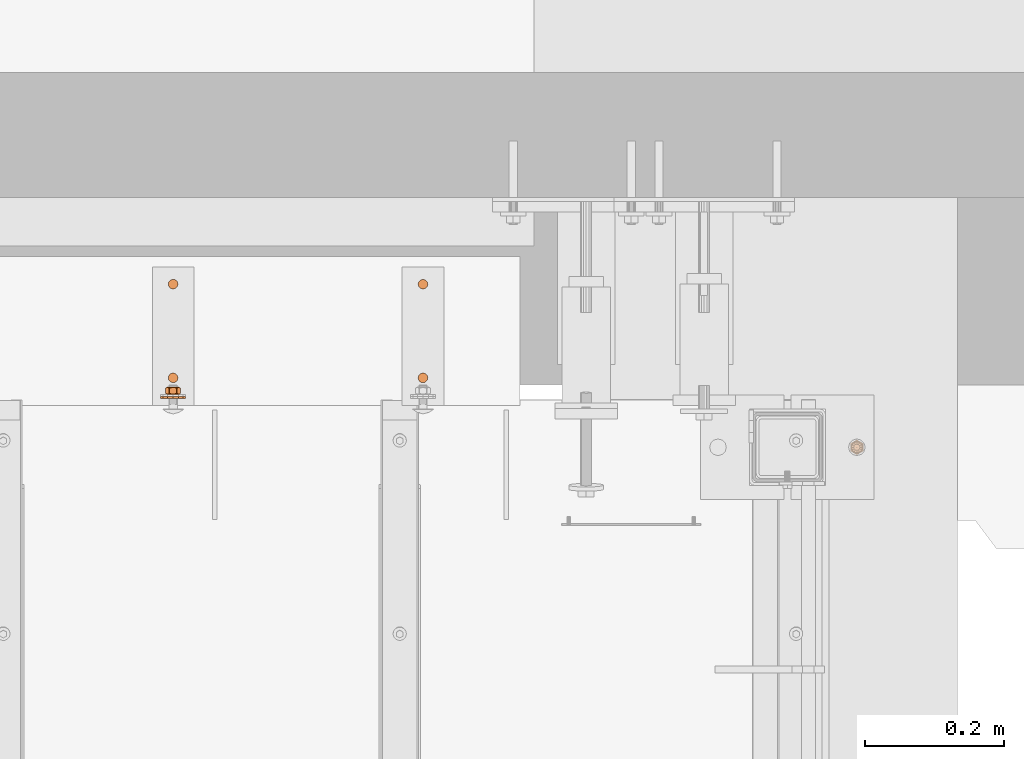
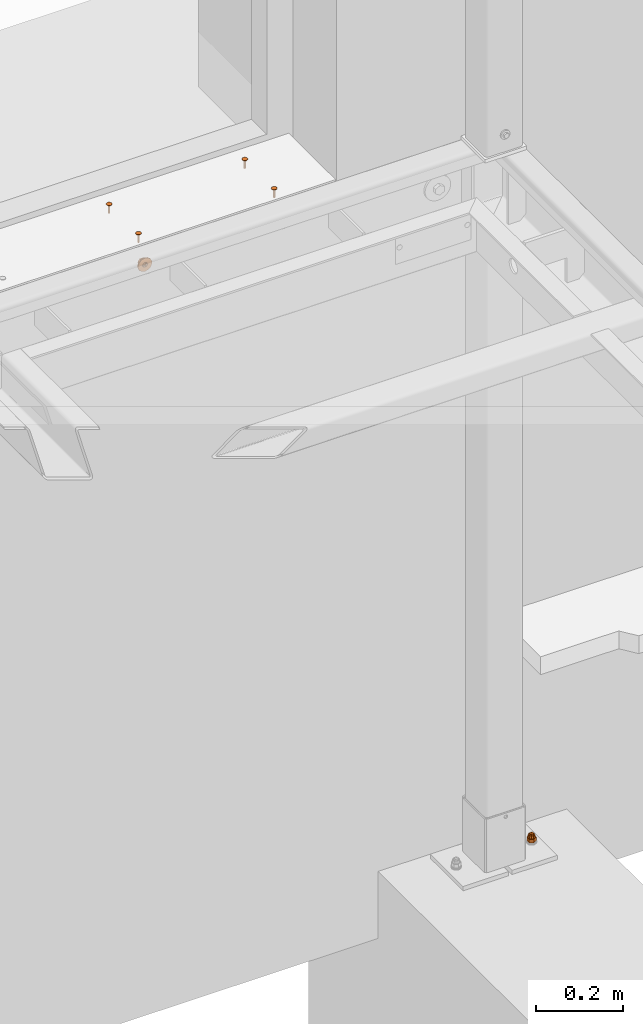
# One storey, part 112 of 116: 7 proxies.
"""IFC2X3 building model written with IfcOpenShell, lengths in millimetres."""

from ifc_helpers import new_model, entity, si_unit, converted_unit, origin_with_axes, place, context, project, spatial, faceted_brep, material, element, save


model = new_model("IFC2X3")

# Units and contexts
model_context = context("Model", 3, precision=1e-09, world=origin_with_axes())
ifc_project = project(units=[si_unit("LENGTHUNIT", "METRE", prefix="MILLI"), si_unit("AREAUNIT", "SQUARE_METRE"), si_unit("VOLUMEUNIT", "CUBIC_METRE"), converted_unit("PLANEANGLEUNIT", "DEGREE", entity("IfcPlaneAngleMeasure", 0.01745329), si_unit("PLANEANGLEUNIT", "RADIAN"), dimensions=[0, 0, 0, 0, 0, 0, 0])], contexts=[model_context])

# Site, building, storey
site_placement = place(None, origin_with_axes())
site = spatial("IfcSite", under=ifc_project, at=site_placement, Name="Site", CompositionType="ELEMENT")
building_placement = place(site_placement, origin_with_axes())
building = spatial("IfcBuilding", under=site, at=building_placement, Name="Struktur 1", CompositionType="ELEMENT")
storey_placement = place(building_placement, origin_with_axes())
storey = spatial("IfcBuildingStorey", under=building, at=storey_placement, Name="Default Storey", CompositionType="ELEMENT", Elevation=0.0)

# Proxies
ifc_material = material(Name="Kein")
proxy_1_placement = place(None, origin_with_axes())
element("IfcBuildingElementProxy", 1, at=proxy_1_placement, inside=storey, material=ifc_material, ObjectType="-", context=model_context, shape_type="Brep", body=[
    faceted_brep([(58273.049134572, 11962.358883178, -1982.0), (58273.049134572, 11962.358883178, -1992.0), (58272.245286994, 11959.358883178, -1992.0), (58272.245286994, 11959.358883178, -1982.0), (58270.049134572, 11957.162730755, -1992.0), (58270.049134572, 11957.162730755, -1982.0), (58272.245286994, 11965.358883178, -1982.0), (58272.245286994, 11965.358883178, -1992.0), (58276.529003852, 11967.832088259, -1992.0), (58276.529003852, 11956.885678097, -1992.0), (58267.049134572, 11951.412473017, -1992.0), (58257.569265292, 11956.885678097, -1992.0), (58257.569265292, 11967.832088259, -1992.0), (58267.049134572, 11973.30529334, -1992.0), (58270.049134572, 11967.555035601, -1992.0), (58267.049134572, 11968.358883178, -1992.0), (58264.049134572, 11967.555035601, -1992.0), (58261.852982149, 11965.358883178, -1992.0), (58261.049134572, 11962.358883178, -1992.0), (58261.852982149, 11959.358883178, -1992.0), (58264.049134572, 11957.162730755, -1992.0), (58267.049134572, 11956.358883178, -1992.0), (58276.529003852, 11967.832088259, -1982.0), (58267.049134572, 11973.30529334, -1982.0), (58257.569265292, 11967.832088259, -1982.0), (58257.569265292, 11956.885678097, -1982.0), (58267.049134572, 11951.412473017, -1982.0), (58276.529003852, 11956.885678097, -1982.0), (58270.049134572, 11967.555035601, -1982.0), (58267.049134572, 11956.358883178, -1982.0), (58267.049134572, 11968.358883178, -1982.0), (58264.049134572, 11957.162730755, -1982.0), (58264.049134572, 11967.555035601, -1982.0), (58261.852982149, 11959.358883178, -1982.0), (58261.852982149, 11965.358883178, -1982.0), (58261.049134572, 11962.358883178, -1982.0)], [[[0, 1, 2, 3]], [[3, 2, 4, 5]], [[1, 0, 6, 7]], [[8, 9, 10, 11, 12, 13], [7, 14, 15, 16, 17, 18, 19, 20, 21, 4, 2, 1]], [[22, 23, 24, 25, 26, 27]], [[7, 6, 28, 14]], [[22, 27, 9, 8]], [[5, 4, 21, 29]], [[10, 9, 27, 26]], [[14, 28, 30, 15]], [[23, 22, 8, 13]], [[29, 21, 20, 31]], [[11, 10, 26, 25]], [[15, 30, 32, 16]], [[24, 23, 13, 12]], [[31, 20, 19, 33]], [[25, 24, 12, 11]], [[16, 32, 34, 17]], [[33, 19, 18, 35]], [[17, 34, 35, 18]]]),
    faceted_brep([(58267.049134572, 11971.358883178, -1979.0), (58267.049134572, 11971.358883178, -1982.0), (58262.549134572, 11970.153111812, -1982.0), (58262.549134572, 11970.153111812, -1979.0), (58271.549134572, 11970.153111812, -1979.0), (58271.549134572, 11970.153111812, -1982.0), (58271.549134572, 11954.564654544, -1979.0), (58274.843363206, 11957.858883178, -1979.0), (58276.049134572, 11962.358883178, -1979.0), (58274.843363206, 11966.858883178, -1979.0), (58259.254905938, 11966.858883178, -1979.0), (58258.049134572, 11962.358883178, -1979.0), (58259.254905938, 11957.858883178, -1979.0), (58262.549134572, 11954.564654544, -1979.0), (58267.049134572, 11953.358883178, -1979.0), (58262.549134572, 11954.564654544, -1982.0), (58259.254905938, 11957.858883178, -1982.0), (58258.049134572, 11962.358883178, -1982.0), (58259.254905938, 11966.858883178, -1982.0), (58274.843363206, 11966.858883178, -1982.0), (58276.049134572, 11962.358883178, -1982.0), (58274.843363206, 11957.858883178, -1982.0), (58271.549134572, 11954.564654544, -1982.0), (58267.049134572, 11953.358883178, -1982.0)], [[[0, 1, 2, 3]], [[1, 0, 4, 5]], [[6, 7, 8, 9, 4, 0, 3, 10, 11, 12, 13, 14]], [[15, 16, 17, 18, 2, 1, 5, 19, 20, 21, 22, 23]], [[3, 2, 18, 10]], [[5, 4, 9, 19]], [[10, 18, 17, 11]], [[19, 9, 8, 20]], [[22, 6, 14, 23]], [[7, 21, 20, 8]], [[6, 22, 21, 7]], [[11, 17, 16, 12]], [[23, 14, 13, 15]], [[12, 16, 15, 13]]]),
    faceted_brep([(58273.799134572, 11966.255997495, -1974.5), (58274.843363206, 11966.858883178, -1979.0), (58271.549134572, 11970.153111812, -1979.0), (58270.946248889, 11969.108883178, -1974.5), (58262.549134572, 11954.564654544, -1979.0), (58259.254905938, 11957.858883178, -1979.0), (58258.049134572, 11962.358883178, -1979.0), (58259.254905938, 11966.858883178, -1979.0), (58262.549134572, 11970.153111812, -1979.0), (58267.049134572, 11971.358883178, -1979.0), (58276.049134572, 11962.358883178, -1979.0), (58274.843363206, 11957.858883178, -1979.0), (58271.549134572, 11954.564654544, -1979.0), (58267.049134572, 11953.358883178, -1979.0), (58267.049134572, 11970.153111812, -1974.5), (58271.549134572, 11962.358883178, -1971.205771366), (58274.843363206, 11962.358883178, -1974.5), (58270.946248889, 11964.608883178, -1971.205771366), (58263.152020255, 11969.108883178, -1974.5), (58269.299134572, 11966.255997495, -1971.205771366), (58270.946248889, 11960.108883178, -1971.205771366), (58273.799134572, 11958.461768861, -1974.5), (58267.049134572, 11966.858883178, -1971.205771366), (58267.049134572, 11962.358883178, -1970.0), (58269.299134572, 11958.461768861, -1971.205771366), (58270.946248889, 11955.608883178, -1974.5), (58267.049134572, 11954.564654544, -1974.5), (58260.299134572, 11966.255997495, -1974.5), (58264.799134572, 11966.255997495, -1971.205771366), (58267.049134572, 11957.858883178, -1971.205771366), (58263.152020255, 11955.608883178, -1974.5), (58264.799134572, 11958.461768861, -1971.205771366), (58259.254905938, 11962.358883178, -1974.5), (58263.152020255, 11964.608883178, -1971.205771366), (58260.299134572, 11958.461768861, -1974.5), (58263.152020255, 11960.108883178, -1971.205771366), (58262.549134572, 11962.358883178, -1971.205771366)], [[[0, 1, 2, 3]], [[4, 5, 6, 7, 8, 9, 2, 1, 10, 11, 12, 13]], [[3, 2, 9, 14]], [[15, 16, 0, 17]], [[1, 0, 16, 10]], [[14, 9, 8, 18]], [[17, 0, 3, 19]], [[16, 15, 20, 21]], [[19, 3, 14, 22]], [[17, 23, 15]], [[24, 25, 21, 20]], [[15, 23, 20]], [[12, 25, 26, 13]], [[11, 21, 25, 12]], [[10, 16, 21, 11]], [[18, 8, 7, 27]], [[22, 14, 18, 28]], [[19, 23, 17]], [[29, 26, 25, 24]], [[20, 23, 24]], [[22, 23, 19]], [[13, 26, 30, 4]], [[26, 29, 31, 30]], [[24, 23, 29]], [[27, 7, 6, 32]], [[28, 18, 27, 33]], [[28, 23, 22]], [[29, 23, 31]], [[33, 23, 28]], [[4, 30, 34, 5]], [[30, 31, 35, 34]], [[31, 23, 35]], [[32, 6, 5, 34]], [[33, 27, 32, 36]], [[36, 23, 33]], [[35, 23, 36]], [[34, 35, 36, 32]]]),
])
proxy_2_placement = place(None, origin_with_axes())
element("IfcBuildingElementProxy", 2, at=proxy_2_placement, inside=storey, material=ifc_material, ObjectType="-", context=model_context, shape_type="Brep", body=[
    faceted_brep([(57642.050634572, 12190.357883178, -5.0), (57642.050634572, 12190.357883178, -4.0), (57638.550634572, 12191.295705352, -4.0), (57638.550634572, 12191.295705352, -5.0), (57645.550634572, 12191.295705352, -5.0), (57645.550634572, 12191.295705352, -4.0), (57648.112812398, 12200.857883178, -4.0), (57645.550634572, 12203.420061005, -4.0), (57642.050634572, 12204.357883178, -4.0), (57638.550634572, 12203.420061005, -4.0), (57635.988456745, 12200.857883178, -4.0), (57635.050634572, 12197.357883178, -4.0), (57635.988456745, 12193.857883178, -4.0), (57648.112812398, 12193.857883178, -4.0), (57649.050634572, 12197.357883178, -4.0), (57635.988456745, 12200.857883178, -5.0), (57638.550634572, 12203.420061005, -5.0), (57642.050634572, 12204.357883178, -5.0), (57645.550634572, 12203.420061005, -5.0), (57648.112812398, 12200.857883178, -5.0), (57649.050634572, 12197.357883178, -5.0), (57648.112812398, 12193.857883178, -5.0), (57635.988456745, 12193.857883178, -5.0), (57635.050634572, 12197.357883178, -5.0)], [[[0, 1, 2, 3]], [[1, 0, 4, 5]], [[6, 7, 8, 9, 10, 11, 12, 2, 1, 5, 13, 14]], [[15, 16, 17, 18, 19, 20, 21, 4, 0, 3, 22, 23]], [[3, 2, 12, 22]], [[5, 4, 21, 13]], [[11, 23, 22, 12]], [[10, 15, 23, 11]], [[13, 21, 20, 14]], [[16, 9, 8, 17]], [[15, 10, 9, 16]], [[17, 8, 7, 18]], [[14, 20, 19, 6]], [[18, 7, 6, 19]]]),
    faceted_brep([(57642.050634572, 12194.857883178, -30.0), (57642.050634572, 12194.857883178, -5.0), (57640.800634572, 12195.192819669, -5.0), (57640.800634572, 12195.192819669, -30.0), (57643.300634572, 12195.192819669, -30.0), (57643.300634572, 12195.192819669, -5.0), (57644.215698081, 12198.607883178, -5.0), (57643.300634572, 12199.522946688, -5.0), (57642.050634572, 12199.857883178, -5.0), (57640.800634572, 12199.522946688, -5.0), (57639.885571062, 12198.607883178, -5.0), (57639.550634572, 12197.357883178, -5.0), (57639.885571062, 12196.107883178, -5.0), (57644.215698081, 12196.107883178, -5.0), (57644.550634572, 12197.357883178, -5.0), (57639.885571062, 12198.607883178, -30.0), (57640.800634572, 12199.522946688, -30.0), (57642.050634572, 12199.857883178, -30.0), (57643.300634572, 12199.522946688, -30.0), (57644.215698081, 12198.607883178, -30.0), (57644.550634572, 12197.357883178, -30.0), (57644.215698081, 12196.107883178, -30.0), (57639.885571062, 12196.107883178, -30.0), (57639.550634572, 12197.357883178, -30.0)], [[[0, 1, 2, 3]], [[1, 0, 4, 5]], [[6, 7, 8, 9, 10, 11, 12, 2, 1, 5, 13, 14]], [[15, 16, 17, 18, 19, 20, 21, 4, 0, 3, 22, 23]], [[3, 2, 12, 22]], [[5, 4, 21, 13]], [[11, 23, 22, 12]], [[10, 15, 23, 11]], [[13, 21, 20, 14]], [[16, 9, 8, 17]], [[15, 10, 9, 16]], [[17, 8, 7, 18]], [[14, 20, 19, 6]], [[18, 7, 6, 19]]]),
])
proxy_3_placement = place(None, origin_with_axes())
element("IfcBuildingElementProxy", 3, at=proxy_3_placement, inside=storey, material=ifc_material, ObjectType="-", context=model_context, shape_type="Brep", body=[
    faceted_brep([(57642.050634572, 12055.358883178, -5.0), (57642.050634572, 12055.358883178, -4.0), (57638.550634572, 12056.296705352, -4.0), (57638.550634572, 12056.296705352, -5.0), (57645.550634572, 12056.296705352, -5.0), (57645.550634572, 12056.296705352, -4.0), (57648.112812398, 12065.858883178, -4.0), (57645.550634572, 12068.421061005, -4.0), (57642.050634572, 12069.358883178, -4.0), (57638.550634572, 12068.421061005, -4.0), (57635.988456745, 12065.858883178, -4.0), (57635.050634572, 12062.358883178, -4.0), (57635.988456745, 12058.858883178, -4.0), (57648.112812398, 12058.858883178, -4.0), (57649.050634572, 12062.358883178, -4.0), (57635.988456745, 12065.858883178, -5.0), (57638.550634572, 12068.421061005, -5.0), (57642.050634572, 12069.358883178, -5.0), (57645.550634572, 12068.421061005, -5.0), (57648.112812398, 12065.858883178, -5.0), (57649.050634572, 12062.358883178, -5.0), (57648.112812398, 12058.858883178, -5.0), (57635.988456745, 12058.858883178, -5.0), (57635.050634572, 12062.358883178, -5.0)], [[[0, 1, 2, 3]], [[1, 0, 4, 5]], [[6, 7, 8, 9, 10, 11, 12, 2, 1, 5, 13, 14]], [[15, 16, 17, 18, 19, 20, 21, 4, 0, 3, 22, 23]], [[3, 2, 12, 22]], [[5, 4, 21, 13]], [[11, 23, 22, 12]], [[10, 15, 23, 11]], [[13, 21, 20, 14]], [[16, 9, 8, 17]], [[15, 10, 9, 16]], [[17, 8, 7, 18]], [[14, 20, 19, 6]], [[18, 7, 6, 19]]]),
    faceted_brep([(57642.050634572, 12059.858883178, -30.0), (57642.050634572, 12059.858883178, -5.0), (57640.800634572, 12060.193819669, -5.0), (57640.800634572, 12060.193819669, -30.0), (57643.300634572, 12060.193819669, -30.0), (57643.300634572, 12060.193819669, -5.0), (57644.215698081, 12063.608883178, -5.0), (57643.300634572, 12064.523946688, -5.0), (57642.050634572, 12064.858883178, -5.0), (57640.800634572, 12064.523946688, -5.0), (57639.885571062, 12063.608883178, -5.0), (57639.550634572, 12062.358883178, -5.0), (57639.885571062, 12061.108883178, -5.0), (57644.215698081, 12061.108883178, -5.0), (57644.550634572, 12062.358883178, -5.0), (57639.885571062, 12063.608883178, -30.0), (57640.800634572, 12064.523946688, -30.0), (57642.050634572, 12064.858883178, -30.0), (57643.300634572, 12064.523946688, -30.0), (57644.215698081, 12063.608883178, -30.0), (57644.550634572, 12062.358883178, -30.0), (57644.215698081, 12061.108883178, -30.0), (57639.885571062, 12061.108883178, -30.0), (57639.550634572, 12062.358883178, -30.0)], [[[0, 1, 2, 3]], [[1, 0, 4, 5]], [[6, 7, 8, 9, 10, 11, 12, 2, 1, 5, 13, 14]], [[15, 16, 17, 18, 19, 20, 21, 4, 0, 3, 22, 23]], [[3, 2, 12, 22]], [[5, 4, 21, 13]], [[11, 23, 22, 12]], [[10, 15, 23, 11]], [[13, 21, 20, 14]], [[16, 9, 8, 17]], [[15, 10, 9, 16]], [[17, 8, 7, 18]], [[14, 20, 19, 6]], [[18, 7, 6, 19]]]),
])
proxy_4_placement = place(None, origin_with_axes())
element("IfcBuildingElementProxy", 4, at=proxy_4_placement, inside=storey, material=ifc_material, ObjectType="-", context=model_context, shape_type="Brep", body=[
    faceted_brep([(57282.050634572, 12055.358883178, -5.0), (57282.050634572, 12055.358883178, -4.0), (57278.550634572, 12056.296705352, -4.0), (57278.550634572, 12056.296705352, -5.0), (57285.550634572, 12056.296705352, -5.0), (57285.550634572, 12056.296705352, -4.0), (57288.112812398, 12065.858883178, -4.0), (57285.550634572, 12068.421061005, -4.0), (57282.050634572, 12069.358883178, -4.0), (57278.550634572, 12068.421061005, -4.0), (57275.988456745, 12065.858883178, -4.0), (57275.050634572, 12062.358883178, -4.0), (57275.988456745, 12058.858883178, -4.0), (57288.112812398, 12058.858883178, -4.0), (57289.050634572, 12062.358883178, -4.0), (57275.988456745, 12065.858883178, -5.0), (57278.550634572, 12068.421061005, -5.0), (57282.050634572, 12069.358883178, -5.0), (57285.550634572, 12068.421061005, -5.0), (57288.112812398, 12065.858883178, -5.0), (57289.050634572, 12062.358883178, -5.0), (57288.112812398, 12058.858883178, -5.0), (57275.988456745, 12058.858883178, -5.0), (57275.050634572, 12062.358883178, -5.0)], [[[0, 1, 2, 3]], [[1, 0, 4, 5]], [[6, 7, 8, 9, 10, 11, 12, 2, 1, 5, 13, 14]], [[15, 16, 17, 18, 19, 20, 21, 4, 0, 3, 22, 23]], [[3, 2, 12, 22]], [[5, 4, 21, 13]], [[11, 23, 22, 12]], [[10, 15, 23, 11]], [[13, 21, 20, 14]], [[16, 9, 8, 17]], [[15, 10, 9, 16]], [[17, 8, 7, 18]], [[14, 20, 19, 6]], [[18, 7, 6, 19]]]),
    faceted_brep([(57282.050634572, 12059.858883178, -30.0), (57282.050634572, 12059.858883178, -5.0), (57280.800634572, 12060.193819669, -5.0), (57280.800634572, 12060.193819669, -30.0), (57283.300634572, 12060.193819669, -30.0), (57283.300634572, 12060.193819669, -5.0), (57284.215698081, 12063.608883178, -5.0), (57283.300634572, 12064.523946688, -5.0), (57282.050634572, 12064.858883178, -5.0), (57280.800634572, 12064.523946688, -5.0), (57279.885571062, 12063.608883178, -5.0), (57279.550634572, 12062.358883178, -5.0), (57279.885571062, 12061.108883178, -5.0), (57284.215698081, 12061.108883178, -5.0), (57284.550634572, 12062.358883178, -5.0), (57279.885571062, 12063.608883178, -30.0), (57280.800634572, 12064.523946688, -30.0), (57282.050634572, 12064.858883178, -30.0), (57283.300634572, 12064.523946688, -30.0), (57284.215698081, 12063.608883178, -30.0), (57284.550634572, 12062.358883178, -30.0), (57284.215698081, 12061.108883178, -30.0), (57279.885571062, 12061.108883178, -30.0), (57279.550634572, 12062.358883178, -30.0)], [[[0, 1, 2, 3]], [[1, 0, 4, 5]], [[6, 7, 8, 9, 10, 11, 12, 2, 1, 5, 13, 14]], [[15, 16, 17, 18, 19, 20, 21, 4, 0, 3, 22, 23]], [[3, 2, 12, 22]], [[5, 4, 21, 13]], [[11, 23, 22, 12]], [[10, 15, 23, 11]], [[13, 21, 20, 14]], [[16, 9, 8, 17]], [[15, 10, 9, 16]], [[17, 8, 7, 18]], [[14, 20, 19, 6]], [[18, 7, 6, 19]]]),
])
proxy_5_placement = place(None, origin_with_axes())
element("IfcBuildingElementProxy", 5, at=proxy_5_placement, inside=storey, material=ifc_material, ObjectType="-", context=model_context, shape_type="Brep", body=[
    faceted_brep([(57282.050634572, 12190.357883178, -5.0), (57282.050634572, 12190.357883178, -4.0), (57278.550634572, 12191.295705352, -4.0), (57278.550634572, 12191.295705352, -5.0), (57285.550634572, 12191.295705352, -5.0), (57285.550634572, 12191.295705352, -4.0), (57288.112812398, 12200.857883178, -4.0), (57285.550634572, 12203.420061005, -4.0), (57282.050634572, 12204.357883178, -4.0), (57278.550634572, 12203.420061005, -4.0), (57275.988456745, 12200.857883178, -4.0), (57275.050634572, 12197.357883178, -4.0), (57275.988456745, 12193.857883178, -4.0), (57288.112812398, 12193.857883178, -4.0), (57289.050634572, 12197.357883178, -4.0), (57275.988456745, 12200.857883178, -5.0), (57278.550634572, 12203.420061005, -5.0), (57282.050634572, 12204.357883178, -5.0), (57285.550634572, 12203.420061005, -5.0), (57288.112812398, 12200.857883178, -5.0), (57289.050634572, 12197.357883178, -5.0), (57288.112812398, 12193.857883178, -5.0), (57275.988456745, 12193.857883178, -5.0), (57275.050634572, 12197.357883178, -5.0)], [[[0, 1, 2, 3]], [[1, 0, 4, 5]], [[6, 7, 8, 9, 10, 11, 12, 2, 1, 5, 13, 14]], [[15, 16, 17, 18, 19, 20, 21, 4, 0, 3, 22, 23]], [[3, 2, 12, 22]], [[5, 4, 21, 13]], [[11, 23, 22, 12]], [[10, 15, 23, 11]], [[13, 21, 20, 14]], [[16, 9, 8, 17]], [[15, 10, 9, 16]], [[17, 8, 7, 18]], [[14, 20, 19, 6]], [[18, 7, 6, 19]]]),
    faceted_brep([(57282.050634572, 12194.857883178, -30.0), (57282.050634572, 12194.857883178, -5.0), (57280.800634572, 12195.192819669, -5.0), (57280.800634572, 12195.192819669, -30.0), (57283.300634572, 12195.192819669, -30.0), (57283.300634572, 12195.192819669, -5.0), (57284.215698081, 12198.607883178, -5.0), (57283.300634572, 12199.522946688, -5.0), (57282.050634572, 12199.857883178, -5.0), (57280.800634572, 12199.522946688, -5.0), (57279.885571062, 12198.607883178, -5.0), (57279.550634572, 12197.357883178, -5.0), (57279.885571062, 12196.107883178, -5.0), (57284.215698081, 12196.107883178, -5.0), (57284.550634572, 12197.357883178, -5.0), (57279.885571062, 12198.607883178, -30.0), (57280.800634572, 12199.522946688, -30.0), (57282.050634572, 12199.857883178, -30.0), (57283.300634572, 12199.522946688, -30.0), (57284.215698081, 12198.607883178, -30.0), (57284.550634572, 12197.357883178, -30.0), (57284.215698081, 12196.107883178, -30.0), (57279.885571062, 12196.107883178, -30.0), (57279.550634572, 12197.357883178, -30.0)], [[[0, 1, 2, 3]], [[1, 0, 4, 5]], [[6, 7, 8, 9, 10, 11, 12, 2, 1, 5, 13, 14]], [[15, 16, 17, 18, 19, 20, 21, 4, 0, 3, 22, 23]], [[3, 2, 12, 22]], [[5, 4, 21, 13]], [[11, 23, 22, 12]], [[10, 15, 23, 11]], [[13, 21, 20, 14]], [[16, 9, 8, 17]], [[15, 10, 9, 16]], [[17, 8, 7, 18]], [[14, 20, 19, 6]], [[18, 7, 6, 19]]]),
])
proxy_6_placement = place(None, origin_with_axes())
element("IfcBuildingElementProxy", 6, at=proxy_6_placement, inside=storey, material=ifc_material, ObjectType="-", context=model_context, shape_type="Brep", body=[
    faceted_brep([(57296.514516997, 12032.358883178, -63.465438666), (57296.514516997, 12035.358883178, -63.465438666), (57290.077483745, 12035.358883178, -58.332075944), (57290.077483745, 12032.358883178, -58.332075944), (57300.086800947, 12032.358883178, -79.116637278), (57300.086800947, 12032.358883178, -70.883362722), (57282.050634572, 12032.358883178, -56.5), (57274.023785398, 12032.358883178, -58.332075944), (57267.586752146, 12032.358883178, -63.465438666), (57264.014468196, 12032.358883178, -70.883362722), (57264.014468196, 12032.358883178, -79.116637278), (57267.586752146, 12032.358883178, -86.534561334), (57274.023785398, 12032.358883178, -91.667924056), (57282.050634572, 12032.358883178, -93.5), (57290.077483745, 12032.358883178, -91.667924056), (57296.514516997, 12032.358883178, -86.534561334), (57287.679799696, 12032.358883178, -71.75), (57288.550634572, 12032.358883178, -75.0), (57287.679799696, 12032.358883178, -78.25), (57285.300634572, 12032.358883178, -80.629165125), (57282.050634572, 12032.358883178, -81.5), (57278.800634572, 12032.358883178, -80.629165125), (57276.421469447, 12032.358883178, -78.25), (57275.550634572, 12032.358883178, -75.0), (57276.421469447, 12032.358883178, -71.75), (57278.800634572, 12032.358883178, -69.370834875), (57282.050634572, 12032.358883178, -68.5), (57285.300634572, 12032.358883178, -69.370834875), (57274.023785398, 12035.358883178, -58.332075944), (57282.050634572, 12035.358883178, -56.5), (57300.086800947, 12035.358883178, -70.883362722), (57300.086800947, 12035.358883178, -79.116637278), (57296.514516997, 12035.358883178, -86.534561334), (57290.077483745, 12035.358883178, -91.667924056), (57282.050634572, 12035.358883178, -93.5), (57274.023785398, 12035.358883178, -91.667924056), (57267.586752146, 12035.358883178, -86.534561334), (57264.014468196, 12035.358883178, -79.116637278), (57264.014468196, 12035.358883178, -70.883362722), (57267.586752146, 12035.358883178, -63.465438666), (57282.050634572, 12035.358883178, -68.5), (57278.800634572, 12035.358883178, -69.370834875), (57276.421469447, 12035.358883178, -71.75), (57275.550634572, 12035.358883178, -75.0), (57276.421469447, 12035.358883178, -78.25), (57278.800634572, 12035.358883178, -80.629165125), (57282.050634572, 12035.358883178, -81.5), (57285.300634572, 12035.358883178, -80.629165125), (57287.679799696, 12035.358883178, -78.25), (57288.550634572, 12035.358883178, -75.0), (57287.679799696, 12035.358883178, -71.75), (57285.300634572, 12035.358883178, -69.370834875)], [[[0, 1, 2, 3]], [[4, 5, 0, 3, 6, 7, 8, 9, 10, 11, 12, 13, 14, 15], [16, 17, 18, 19, 20, 21, 22, 23, 24, 25, 26, 27]], [[28, 29, 2, 1, 30, 31, 32, 33, 34, 35, 36, 37, 38, 39], [40, 41, 42, 43, 44, 45, 46, 47, 48, 49, 50, 51]], [[1, 0, 5, 30]], [[27, 51, 50, 16]], [[51, 27, 26, 40]], [[3, 2, 29, 6]], [[30, 5, 4, 31]], [[16, 50, 49, 17]], [[40, 26, 25, 41]], [[6, 29, 28, 7]], [[31, 4, 15, 32]], [[17, 49, 48, 18]], [[41, 25, 24, 42]], [[7, 28, 39, 8]], [[32, 15, 14, 33]], [[18, 48, 47, 19]], [[42, 24, 23, 43]], [[8, 39, 38, 9]], [[33, 14, 13, 34]], [[19, 47, 46, 20]], [[22, 44, 43, 23]], [[9, 38, 37, 10]], [[45, 21, 20, 46]], [[44, 22, 21, 45]], [[34, 13, 12, 35]], [[10, 37, 36, 11]], [[35, 12, 11, 36]]]),
])
proxy_7_placement = place(None, origin_with_axes())
element("IfcBuildingElementProxy", 7, at=proxy_7_placement, inside=storey, material=ifc_material, ObjectType="-", context=model_context, shape_type="Brep", body=[
    faceted_brep([(57287.538668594, 12039.773542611, -65.756103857), (57287.538668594, 12047.744223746, -65.756103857), (57287.31206645, 12047.744223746, -65.625275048), (57287.31206645, 12039.773542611, -65.625275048), (57287.762019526, 12039.773542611, -65.892408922), (57286.200634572, 12038.358883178, -67.811989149), (57286.200634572, 12049.158883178, -67.811989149), (57287.762019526, 12047.744223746, -65.892408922), (57287.082347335, 12047.744223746, -65.5), (57287.082347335, 12039.773542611, -65.5), (57292.793732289, 12047.744223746, -74.607591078), (57292.793732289, 12039.773542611, -74.607591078), (57292.800100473, 12039.773542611, -74.869171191), (57292.800100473, 12047.744223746, -74.869171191), (57290.277875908, 12039.051703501, -70.25), (57290.277875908, 12048.466062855, -70.25), (57292.800100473, 12039.773542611, -75.130828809), (57292.800100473, 12047.744223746, -75.130828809), (57290.350634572, 12049.158883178, -75.0), (57282.050634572, 12048.466062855, -65.5), (57277.018921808, 12047.744223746, -65.5), (57277.018921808, 12039.773542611, -65.5), (57282.050634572, 12039.051703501, -65.5), (57292.793732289, 12039.773542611, -75.392408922), (57292.793732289, 12047.744223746, -75.392408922), (57290.350634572, 12038.358883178, -75.0), (57289.238645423, 12038.358883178, -70.85), (57282.050634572, 12038.358883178, -66.7), (57277.900634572, 12038.358883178, -67.811989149), (57274.86262372, 12038.358883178, -70.85), (57273.750634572, 12038.358883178, -75.0), (57274.86262372, 12038.358883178, -79.15), (57277.900634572, 12038.358883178, -82.188010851), (57282.050634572, 12038.358883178, -83.3), (57286.200634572, 12038.358883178, -82.188010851), (57289.238645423, 12038.358883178, -79.15), (57279.050634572, 12038.358883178, -69.803847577), (57282.050634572, 12038.358883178, -69.0), (57285.050634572, 12038.358883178, -69.803847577), (57287.246786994, 12038.358883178, -72.0), (57288.050634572, 12038.358883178, -75.0), (57287.246786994, 12038.358883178, -78.0), (57285.050634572, 12038.358883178, -80.196152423), (57282.050634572, 12038.358883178, -81.0), (57279.050634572, 12038.358883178, -80.196152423), (57276.854482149, 12038.358883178, -78.0), (57276.050634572, 12038.358883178, -75.0), (57276.854482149, 12038.358883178, -72.0), (57285.050634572, 12049.158883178, -69.803847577), (57287.246786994, 12049.158883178, -72.0), (57289.238645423, 12049.158883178, -70.85), (57289.238645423, 12049.158883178, -79.15), (57286.200634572, 12049.158883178, -82.188010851), (57282.050634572, 12049.158883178, -83.3), (57277.900634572, 12049.158883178, -82.188010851), (57274.86262372, 12049.158883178, -79.15), (57273.750634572, 12049.158883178, -75.0), (57274.86262372, 12049.158883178, -70.85), (57277.900634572, 12049.158883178, -67.811989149), (57282.050634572, 12049.158883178, -66.7), (57288.050634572, 12049.158883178, -75.0), (57282.050634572, 12049.158883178, -69.0), (57279.050634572, 12049.158883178, -69.803847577), (57276.854482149, 12049.158883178, -72.0), (57276.050634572, 12049.158883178, -75.0), (57276.854482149, 12049.158883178, -78.0), (57279.050634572, 12049.158883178, -80.196152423), (57282.050634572, 12049.158883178, -81.0), (57285.050634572, 12049.158883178, -80.196152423), (57287.246786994, 12049.158883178, -78.0), (57276.789202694, 12047.744223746, -65.625275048), (57276.789202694, 12039.773542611, -65.625275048), (57290.277875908, 12039.051703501, -79.75), (57287.762019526, 12039.773542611, -84.107591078), (57287.762019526, 12047.744223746, -84.107591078), (57290.277875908, 12048.466062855, -79.75), (57276.562600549, 12047.744223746, -65.756103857), (57276.562600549, 12039.773542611, -65.756103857), (57276.339249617, 12047.744223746, -65.892408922), (57276.339249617, 12039.773542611, -65.892408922), (57273.823393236, 12048.466062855, -70.25), (57271.307536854, 12047.744223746, -74.607591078), (57271.307536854, 12039.773542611, -74.607591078), (57273.823393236, 12039.051703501, -70.25), (57287.538668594, 12039.773542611, -84.243896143), (57287.538668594, 12047.744223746, -84.243896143), (57271.301168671, 12047.744223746, -74.869171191), (57271.301168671, 12039.773542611, -74.869171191), (57287.31206645, 12039.773542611, -84.374724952), (57287.31206645, 12047.744223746, -84.374724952), (57271.301168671, 12047.744223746, -75.130828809), (57271.301168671, 12039.773542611, -75.130828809), (57287.082347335, 12039.773542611, -84.5), (57287.082347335, 12047.744223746, -84.5), (57271.307536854, 12047.744223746, -75.392408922), (57271.307536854, 12039.773542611, -75.392408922), (57282.050634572, 12039.051703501, -84.5), (57277.018921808, 12039.773542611, -84.5), (57277.018921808, 12047.744223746, -84.5), (57282.050634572, 12048.466062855, -84.5), (57273.823393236, 12048.466062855, -79.75), (57276.339249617, 12047.744223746, -84.107591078), (57276.339249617, 12039.773542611, -84.107591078), (57273.823393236, 12039.051703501, -79.75), (57276.789202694, 12039.773542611, -84.374724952), (57276.789202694, 12047.744223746, -84.374724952), (57276.562600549, 12039.773542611, -84.243896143), (57276.562600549, 12047.744223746, -84.243896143)], [[[0, 1, 2, 3]], [[4, 0, 5]], [[1, 6, 2]], [[1, 0, 4, 7]], [[8, 9, 3, 2]], [[3, 5, 0]], [[8, 2, 6]], [[10, 11, 12, 13]], [[14, 11, 10, 15, 7, 4]], [[14, 4, 5]], [[1, 7, 6]], [[13, 12, 16, 17]], [[10, 13, 18]], [[8, 19, 20, 21, 22, 9]], [[3, 9, 5]], [[19, 8, 6]], [[23, 24, 17, 16]], [[12, 25, 16]], [[14, 5, 26]], [[5, 27, 28, 29, 30, 31, 32, 33, 34, 35, 25, 26], [36, 37, 38, 39, 40, 41, 42, 43, 44, 45, 46, 47]], [[38, 48, 49, 39]], [[7, 50, 6]], [[6, 50, 18, 51, 52, 53, 54, 55, 56, 57, 58, 59], [60, 49, 48, 61, 62, 63, 64, 65, 66, 67, 68, 69]], [[17, 18, 13]], [[7, 15, 50]], [[15, 10, 18]], [[21, 20, 70, 71]], [[9, 27, 5]], [[19, 6, 59]], [[48, 38, 37, 61]], [[72, 73, 74, 75, 24, 23]], [[23, 16, 25]], [[12, 11, 25]], [[11, 14, 26]], [[17, 24, 18]], [[15, 18, 50]], [[21, 71, 28]], [[71, 70, 76, 77]], [[9, 22, 27]], [[22, 21, 28]], [[70, 20, 58]], [[20, 19, 59]], [[70, 58, 76]], [[78, 79, 77, 76]], [[24, 75, 51]], [[72, 23, 25]], [[11, 26, 25]], [[39, 49, 60, 40]], [[24, 51, 18]], [[77, 28, 71]], [[22, 28, 27]], [[61, 37, 36, 62]], [[20, 59, 58]], [[78, 76, 58]], [[78, 80, 81, 82, 83, 79]], [[75, 52, 51]], [[72, 25, 35]], [[77, 79, 28]], [[80, 78, 58]], [[75, 74, 52]], [[74, 73, 84, 85]], [[73, 72, 35]], [[40, 60, 69, 41]], [[79, 83, 29]], [[83, 82, 30]], [[82, 81, 86, 87]], [[79, 29, 28]], [[62, 36, 47, 63]], [[80, 58, 57]], [[74, 85, 52]], [[85, 84, 88, 89]], [[73, 35, 34]], [[84, 73, 34]], [[83, 30, 29]], [[82, 87, 30]], [[87, 86, 90, 91]], [[81, 80, 57]], [[81, 56, 86]], [[89, 52, 85]], [[89, 88, 92, 93]], [[68, 42, 41, 69]], [[84, 34, 88]], [[91, 30, 87]], [[91, 90, 94, 95]], [[63, 47, 46, 64]], [[81, 57, 56]], [[90, 86, 56]], [[89, 93, 52]], [[42, 68, 67, 43]], [[66, 44, 43, 67]], [[92, 88, 34]], [[91, 95, 30]], [[45, 65, 64, 46]], [[94, 90, 56]], [[93, 53, 52]], [[96, 97, 98, 99, 93, 92]], [[44, 66, 65, 45]], [[96, 92, 34]], [[95, 31, 30]], [[94, 100, 101, 102, 103, 95]], [[94, 56, 100]], [[93, 99, 53]], [[96, 34, 33]], [[95, 103, 31]], [[100, 56, 55]], [[99, 54, 53]], [[97, 96, 33]], [[103, 32, 31]], [[101, 100, 55]], [[99, 98, 54]], [[97, 33, 32]], [[102, 32, 103]], [[101, 55, 54]], [[98, 97, 104, 105]], [[98, 105, 54]], [[97, 32, 104]], [[102, 106, 32]], [[102, 101, 107, 106]], [[107, 101, 54]], [[107, 54, 105]], [[106, 104, 32]], [[105, 104, 106, 107]]]),
])

save(model, "model.ifc")
